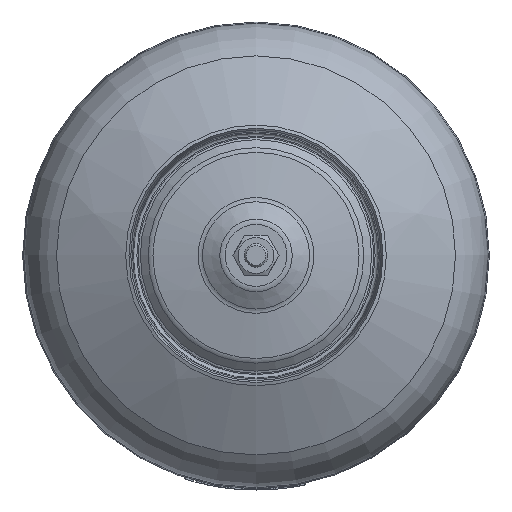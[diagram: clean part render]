
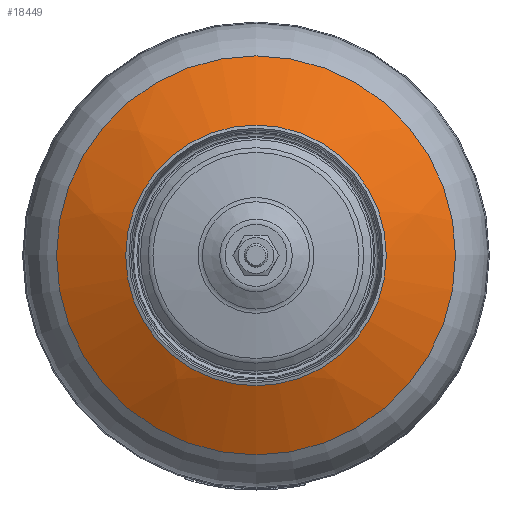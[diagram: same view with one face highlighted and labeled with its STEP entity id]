
A CAD part, front view. The second image highlights one B-rep face of the part: STEP entity #18449.
In plain terms, the highlighted spherical face has radius 159 mm.
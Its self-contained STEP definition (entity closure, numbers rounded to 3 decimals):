
#76=SPHERICAL_SURFACE('',#19804,159.);
#556=FACE_BOUND('',#4364,.T.);
#3221=FACE_OUTER_BOUND('',#4363,.T.);
#4363=EDGE_LOOP('',(#17136));
#4364=EDGE_LOOP('',(#17137));
#7267=CIRCLE('',#19799,54.777);
#7269=CIRCLE('',#19803,85.047);
#9075=VERTEX_POINT('',#40408);
#9077=VERTEX_POINT('',#40414);
#11792=EDGE_CURVE('',#9075,#9075,#7267,.T.);
#11794=EDGE_CURVE('',#9077,#9077,#7269,.T.);
#17136=ORIENTED_EDGE('',*,*,#11794,.T.);
#17137=ORIENTED_EDGE('',*,*,#11792,.T.);
#18449=ADVANCED_FACE('',(#3221,#556),#76,.T.);
#19799=AXIS2_PLACEMENT_3D('',#40409,#23689,#23690);
#19803=AXIS2_PLACEMENT_3D('',#40415,#23697,#23698);
#19804=AXIS2_PLACEMENT_3D('',#40416,#23699,#23700);
#23689=DIRECTION('center_axis',(0.,1.,0.));
#23690=DIRECTION('ref_axis',(0.,0.,1.));
#23697=DIRECTION('center_axis',(0.,-1.,0.));
#23698=DIRECTION('ref_axis',(1.,0.,0.));
#23699=DIRECTION('center_axis',(0.,0.,
1.));
#23700=DIRECTION('ref_axis',(-1.,0.,0.));
#40408=CARTESIAN_POINT('',(-54.777,-157.944,0.));
#40409=CARTESIAN_POINT('Origin',(0.,-157.944,
0.));
#40414=CARTESIAN_POINT('',(85.047,-143.021,0.));
#40415=CARTESIAN_POINT('Origin',(0.,-143.021,
0.));
#40416=CARTESIAN_POINT('Origin',(0.,-8.678,
0.));
